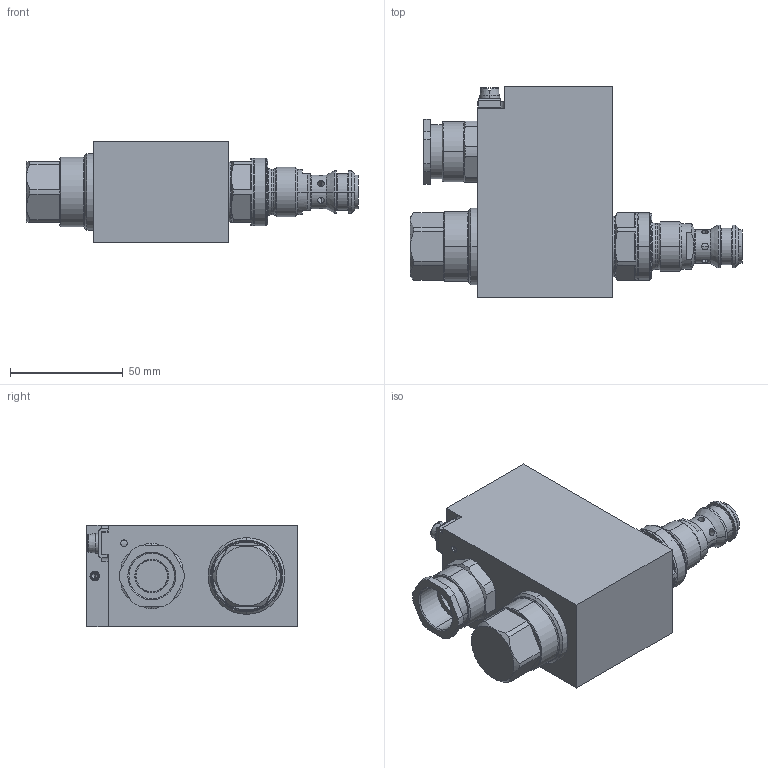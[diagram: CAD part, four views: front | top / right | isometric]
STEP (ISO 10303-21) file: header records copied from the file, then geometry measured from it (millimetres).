
FILE_DESCRIPTION (( 'STEP AP214' ), '1' );
FILE_NAME ('SDYPM22-AB-K9.STEP', '2021-02-24T11:08:39', ( '' ), ( '' ), 'SwSTEP 2.0', 'SolidWorks 2020', '' );
FILE_SCHEMA (( 'AUTOMOTIVE_DESIGN' ));
Length unit declared in the file: millimetre
Products named in the file (1): SDYPM22-AB-K9
Bounding box: 147.2 x 93.3 x 45 mm (x, y, z)
Volume: 296844.4 mm3; surface area: 39085.1 mm2
Topology: 1 solids, 1 shells, 381 faces, 946 edges, 602 vertices
Faces by surface type: plane 166, cylinder 118, cone 57, torus 32, bspline 8
Entity records: 16758 total; most frequent: CARTESIAN_POINT 3537, DIRECTION 1910, ORIENTED_EDGE 1884, EDGE_CURVE 942, AXIS2_PLACEMENT_3D 748, VERTEX_POINT 602, EDGE_LOOP 420, LINE 414
